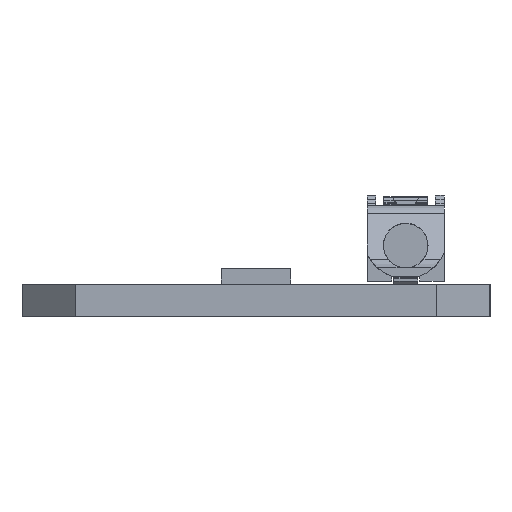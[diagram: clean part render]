
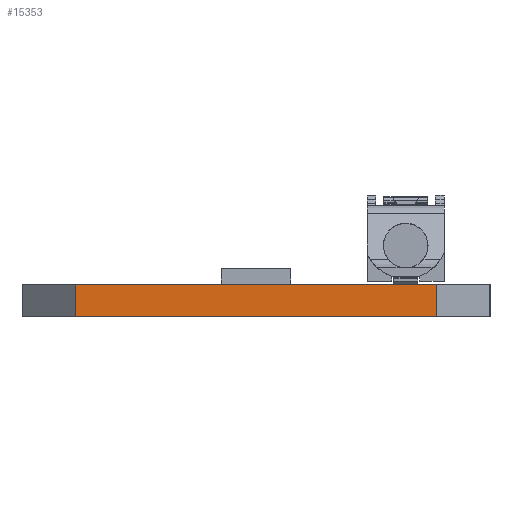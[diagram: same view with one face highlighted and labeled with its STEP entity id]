
A CAD part, left-side view. The second image highlights one B-rep face of the part: STEP entity #15353.
In plain terms, the highlighted planar face has unit normal (-1, 0, 0).
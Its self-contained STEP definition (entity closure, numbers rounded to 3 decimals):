
#75=DIRECTION('',(0.,0.,1.));
#76=VECTOR('',#75,1.65);
#77=CARTESIAN_POINT('',(-279.5,-9.112,0.));
#78=LINE('',#77,#76);
#83=DIRECTION('',(0.,0.,-1.));
#84=VECTOR('',#83,1.65);
#85=CARTESIAN_POINT('',(-279.5,9.119,1.65));
#86=LINE('',#85,#84);
#90=DIRECTION('',(0.,1.,0.));
#91=VECTOR('',#90,18.231);
#92=CARTESIAN_POINT('',(-279.5,-9.112,1.65));
#93=LINE('',#92,#91);
#195=DIRECTION('',(0.,1.,0.));
#196=VECTOR('',#195,18.231);
#197=CARTESIAN_POINT('',(-279.5,-9.112,0.));
#198=LINE('',#197,#196);
#12974=CARTESIAN_POINT('',(-279.5,-9.112,1.65));
#12976=VERTEX_POINT('',#12974);
#12978=CARTESIAN_POINT('',(-279.5,9.119,1.65));
#12979=VERTEX_POINT('',#12978);
#13058=CARTESIAN_POINT('',(-279.5,-9.112,0.));
#13059=VERTEX_POINT('',#13058);
#13130=CARTESIAN_POINT('',(-279.5,9.119,0.));
#13131=VERTEX_POINT('',#13130);
#15338=CARTESIAN_POINT('',(-279.5,9.119,1.65));
#15339=DIRECTION('',(-1.,0.,0.));
#15340=DIRECTION('',(0.,0.,1.));
#15341=AXIS2_PLACEMENT_3D('',#15338,#15339,#15340);
#15342=PLANE('',#15341);
#15344=ORIENTED_EDGE('',*,*,#15343,.F.);
#15346=ORIENTED_EDGE('',*,*,#15345,.T.);
#15348=ORIENTED_EDGE('',*,*,#15347,.F.);
#15350=ORIENTED_EDGE('',*,*,#15349,.F.);
#15351=EDGE_LOOP('',(#15344,#15346,#15348,#15350));
#15352=FACE_OUTER_BOUND('',#15351,.F.);
#15343=EDGE_CURVE('',#13059,#12976,#78,.T.);
#15345=EDGE_CURVE('',#13059,#13131,#198,.T.);
#15347=EDGE_CURVE('',#12979,#13131,#86,.T.);
#15349=EDGE_CURVE('',#12976,#12979,#93,.T.);
#15353=ADVANCED_FACE('',(#15352),#15342,.T.);
